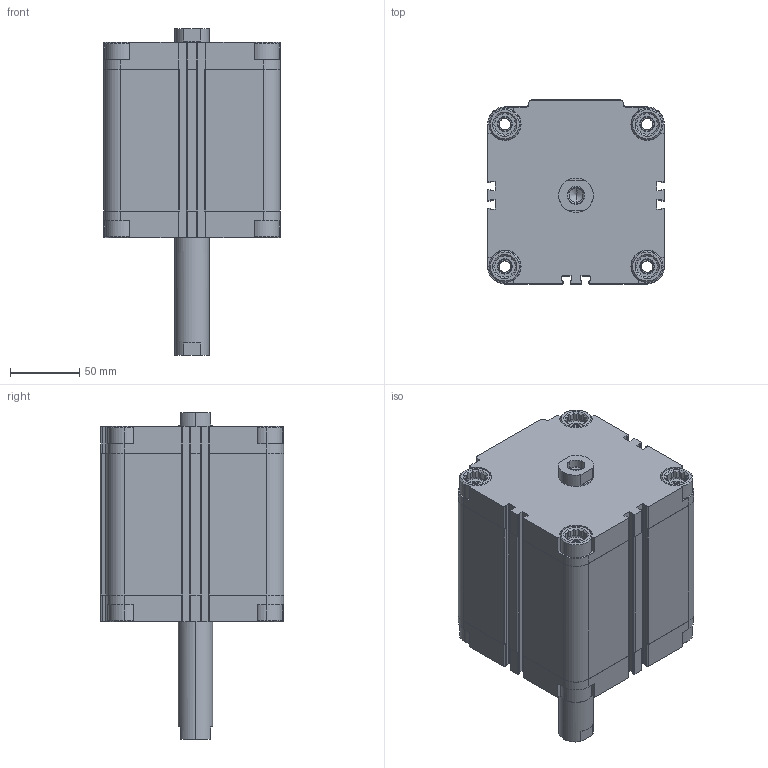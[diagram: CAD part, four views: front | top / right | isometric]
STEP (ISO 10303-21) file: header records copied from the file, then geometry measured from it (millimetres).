
FILE_DESCRIPTION (( 'STEP AP203' ), '1' );
FILE_NAME ('CDVU100-75F-P.STEP', '2020-07-24T18:42:48', ( '' ), ( '' ), 'SwSTEP 2.0', 'SolidWorks 2019', '' );
FILE_SCHEMA (( 'CONFIG_CONTROL_DESIGN' ));
Length unit declared in the file: millimetre
Products named in the file (1): CDVU100-75F-P
Bounding box: 128 x 133 x 236.5 mm (x, y, z)
Volume: 1711978.3 mm3; surface area: 229562.9 mm2
Topology: 2 solids, 2 shells, 670 faces, 1812 edges, 1188 vertices
Faces by surface type: plane 394, cylinder 212, cone 64
Entity records: 21267 total; most frequent: CARTESIAN_POINT 4239, ORIENTED_EDGE 3608, DIRECTION 3458, EDGE_CURVE 1804, VERTEX_POINT 1188, AXIS2_PLACEMENT_3D 1175, VECTOR 1108, LINE 1108
